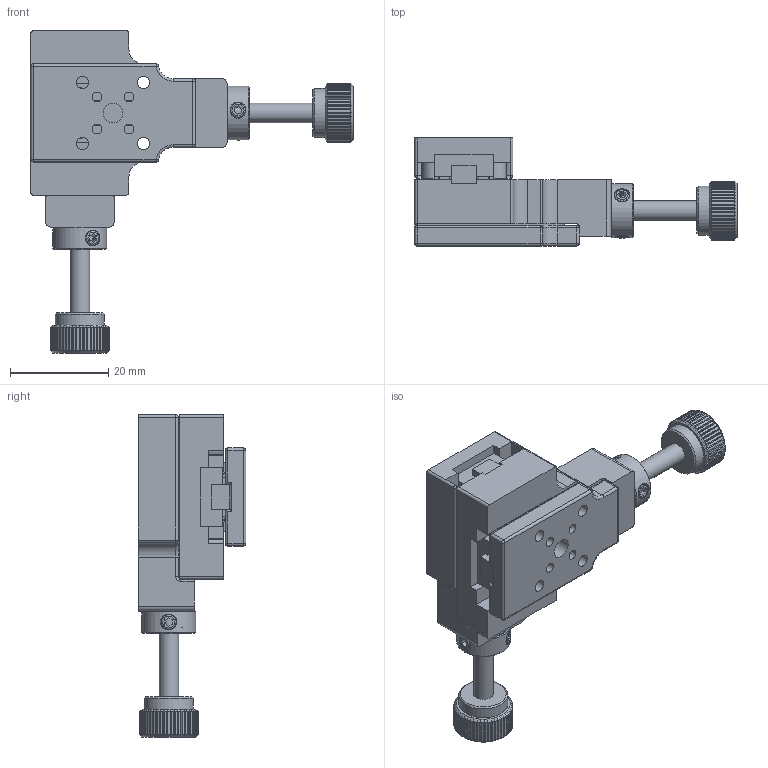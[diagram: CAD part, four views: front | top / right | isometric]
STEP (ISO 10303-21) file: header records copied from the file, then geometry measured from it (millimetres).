
FILE_DESCRIPTION (( 'STEP AP203' ), '1' );
FILE_NAME ('TCR20XY-05A.step', '2017-01-10T09:15:37', ( '¦K¬P' ), ( '' ), 'SwSTEP 2.0', 'SolidWorks 2012', '' );
FILE_SCHEMA (( 'CONFIG_CONTROL_DESIGN' ));
Length unit declared in the file: millimetre
Products named in the file (1): TCR20XY-05A
Bounding box: 65.72 x 22 x 65.72 mm (x, y, z)
Surface area: 11819 mm2 (no closed solid volume)
Topology: 0 solids, 24 shells, 621 faces, 1843 edges, 1225 vertices
Faces by surface type: plane 367, cylinder 202, cone 22, sphere 16, torus 8, bspline 6
Full cylindrical faces by diameter (mm): 1.5 x4, 2 x19, 2.5 x4, 3 x8, 3.5 x2, 4 x6, 4.7 x4, 10 x2, 11 x2
Entity records: 26347 total; most frequent: CARTESIAN_POINT 10561, ORIENTED_EDGE 3199, DIRECTION 3048, EDGE_CURVE 1732, VERTEX_POINT 1211, AXIS2_PLACEMENT_3D 1120, VECTOR 808, LINE 808
